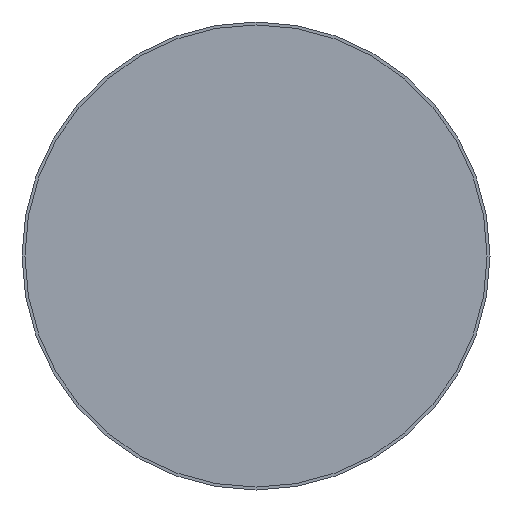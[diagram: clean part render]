
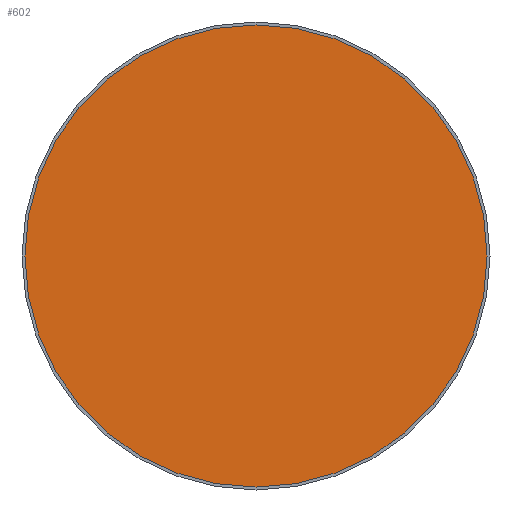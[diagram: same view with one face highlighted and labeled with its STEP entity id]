
A CAD part, front view. The second image highlights one B-rep face of the part: STEP entity #602.
In plain terms, the highlighted planar face has unit normal (0, -1, 0).
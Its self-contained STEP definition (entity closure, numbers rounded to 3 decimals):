
#1=CARTESIAN_POINT('',(0.,0.,0.));
#2=DIRECTION('',(0.,-1.,0.));
#3=DIRECTION('',(1.,0.,0.));
#4=AXIS2_PLACEMENT_3D('',#1,#2,#3);
#14=CARTESIAN_POINT('',(0.,0.,0.));
#15=DIRECTION('',(0.,1.,0.));
#16=DIRECTION('',(1.,0.,0.));
#17=AXIS2_PLACEMENT_3D('',#14,#15,#16);
#459=CARTESIAN_POINT('',(39.5,0.,0.));
#461=VERTEX_POINT('',#459);
#473=CARTESIAN_POINT('',(-39.5,0.,0.));
#475=VERTEX_POINT('',#473);
#591=CARTESIAN_POINT('',(0.,0.,0.));
#592=DIRECTION('',(0.,-1.,0.));
#593=DIRECTION('',(-1.,0.,0.));
#594=AXIS2_PLACEMENT_3D('',#591,#592,#593);
#595=PLANE('',#594);
#597=ORIENTED_EDGE('',*,*,#596,.F.);
#599=ORIENTED_EDGE('',*,*,#598,.T.);
#600=EDGE_LOOP('',(#597,#599));
#601=FACE_OUTER_BOUND('',#600,.F.);
#602=ADVANCED_FACE('',(#601),#595,.T.);
#5=CIRCLE('',#4,39.5);
#18=CIRCLE('',#17,39.5);
#596=EDGE_CURVE('',#461,#475,#5,.T.);
#598=EDGE_CURVE('',#461,#475,#18,.T.);
